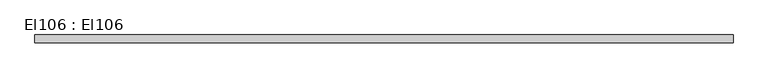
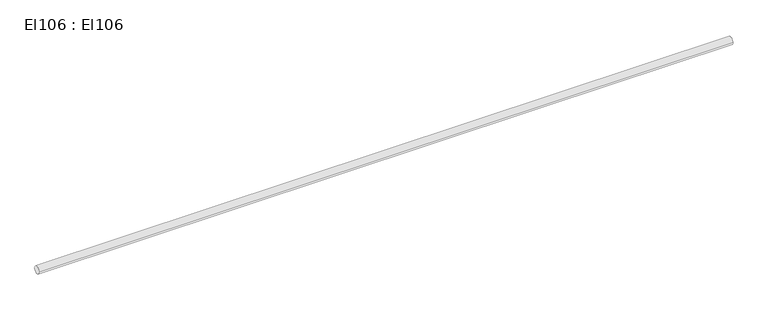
"""IFC4 building model written with IfcOpenShell, lengths in millimetres: cable carrier segment geometry, El106 : El106."""

import ifcopenshell
import ifcopenshell.guid

model = None  # the IFC model being written
_history = None  # IfcOwnerHistory: only IFC2X3 demands one
_inside = {}  # id of a spatial element -> (the spatial element, [elements in it])
_under = {}  # id of a project, library or spatial element -> (it, [spatial elements below it])
_declared = {}  # id of a project -> (the project, [libraries it declares])
_typed = {}  # id of a type object -> (the type object, [elements of that type])
_made_of = {}  # id of a material, layer set ... -> (it, [elements and type objects made of it])


def new_model(schema):
    """Start an empty IFC model of exactly this schema.

    Asked for "IFC4X3", IfcOpenShell would pick the latest addendum, in which some entities
    have other attributes; the version numbers below select the first issue.
    IFC2X3 requires an IfcOwnerHistory on every rooted entity: one is made here for all.
    """
    global model, _history
    if schema == "IFC4X3":
        model = ifcopenshell.file(schema_version=(4, 3, 0, 0))
    else:
        model = ifcopenshell.file(schema=schema)
    _inside.clear()
    _under.clear()
    _declared.clear()
    _typed.clear()
    _made_of.clear()
    _history = None
    if model.schema == "IFC2X3":
        org = make("IfcOrganization", Name="unknown")
        user = make(
            "IfcPersonAndOrganization",
            ThePerson=make("IfcPerson", FamilyName="unknown"),
            TheOrganization=org,
        )
        app = make(
            "IfcApplication",
            ApplicationDeveloper=org,
            Version="unknown",
            ApplicationFullName="unknown",
            ApplicationIdentifier="unknown",
        )
        _history = make(
            "IfcOwnerHistory",
            OwningUser=user,
            OwningApplication=app,
            ChangeAction="ADDED",
            CreationDate=0,
        )
    return model


def make(cls, **values):
    """One entity of the class cls with the attributes given. An attribute that is None is left unset."""
    return model.create_entity(
        cls, **{name: value for name, value in values.items() if value is not None}
    )


def rooted(cls, **values):
    """An entity with a GlobalId (a new one), such as an element, a storey or a relation."""
    return make(cls, GlobalId=ifcopenshell.guid.new(), OwnerHistory=_history, **values)


def si_unit(unit_type, name, prefix=None):
    """IfcSIUnit, for example si_unit("LENGTHUNIT", "METRE", prefix="MILLI")."""
    return make("IfcSIUnit", UnitType=unit_type, Prefix=prefix, Name=name)


def assignment(units):
    """IfcUnitAssignment: the units of a project."""
    return None if units is None else make("IfcUnitAssignment", Units=units)


def point(xyz):
    """IfcCartesianPoint."""
    return None if xyz is None else make("IfcCartesianPoint", Coordinates=xyz)


def direction(xyz):
    """IfcDirection."""
    return None if xyz is None else make("IfcDirection", DirectionRatios=xyz)


def frame(location, z_axis=None, x_axis=None):
    """IfcAxis2Placement3D, a coordinate frame: its origin and axes. An axis left out is left unset."""
    return make(
        "IfcAxis2Placement3D",
        Location=point(location),
        Axis=direction(z_axis),
        RefDirection=direction(x_axis),
    )


def frame_2d(location, x_axis=None):
    """IfcAxis2Placement2D, a coordinate frame in the plane: its origin and x axis."""
    return make(
        "IfcAxis2Placement2D", Location=point(location), RefDirection=direction(x_axis)
    )


def origin():
    """The frame at (0, 0, 0) with its axes left unset."""
    return frame((0.0, 0.0, 0.0))


def place(relative_to, where):
    """IfcLocalPlacement: puts the frame where relative to a parent placement (None: the world)."""
    return make(
        "IfcLocalPlacement", PlacementRelTo=relative_to, RelativePlacement=where
    )


def context(
    kind, dimensions, precision=None, world=None, true_north=None, identifier=None
):
    """IfcGeometricRepresentationContext, for example the 3D "Model" context."""
    return make(
        "IfcGeometricRepresentationContext",
        ContextIdentifier=identifier,
        ContextType=kind,
        CoordinateSpaceDimension=dimensions,
        Precision=precision,
        WorldCoordinateSystem=world,
        TrueNorth=true_north,
    )


def project(units=None, contexts=None):
    """IfcProject with its units and contexts."""
    return rooted(
        "IfcProject",
        Name="project",
        RepresentationContexts=contexts,
        UnitsInContext=assignment(units),
    )


def spatial(cls, under=None, at=None, **own):
    """A site, building, storey or space (cls), placed at a placement, below another one or the project."""
    s = rooted(cls, ObjectPlacement=at, **own)
    if under is not None:
        _under.setdefault(under.id(), (under, []))[1].append(s)
    return s


def circle_curve(where, radius):
    """IfcCircle in the frame where."""
    return make("IfcCircle", Position=where, Radius=radius)


def trimmed(basis, trim1, trim2, sense, master):
    """IfcTrimmedCurve: the piece of a basis curve between two trims."""
    return make(
        "IfcTrimmedCurve",
        BasisCurve=basis,
        Trim1=trim1,
        Trim2=trim2,
        SenseAgreement=sense,
        MasterRepresentation=master,
    )


def segment(curve, same_sense, transition):
    """IfcCompositeCurveSegment."""
    return make(
        "IfcCompositeCurveSegment",
        Transition=transition,
        SameSense=same_sense,
        ParentCurve=curve,
    )


def composite_curve(segments, self_intersect=None):
    """IfcCompositeCurve: segments joined end to end."""
    return make("IfcCompositeCurve", Segments=segments, SelfIntersect=self_intersect)


def outline(outer, holes=None, kind="AREA"):
    """IfcArbitraryClosedProfileDef: a profile drawn as a closed curve; with holes, ...WithVoids."""
    if holes is None:
        return make("IfcArbitraryClosedProfileDef", ProfileType=kind, OuterCurve=outer)
    return make(
        "IfcArbitraryProfileDefWithVoids",
        ProfileType=kind,
        OuterCurve=outer,
        InnerCurves=holes,
    )


def extrude(swept, where, along, depth):
    """IfcExtrudedAreaSolid: the profile swept, set in the frame where, extruded along a direction by depth."""
    return make(
        "IfcExtrudedAreaSolid",
        SweptArea=swept,
        Position=where,
        ExtrudedDirection=direction(along),
        Depth=depth,
    )


def shape(context_of_items, identifier, shape_type, items):
    """IfcShapeRepresentation: the items that make up one representation, for example the "Body"."""
    return make(
        "IfcShapeRepresentation",
        ContextOfItems=context_of_items,
        RepresentationIdentifier=identifier,
        RepresentationType=shape_type,
        Items=items,
    )


def source(mapping_origin, context_of_items, identifier, shape_type, items):
    """IfcRepresentationMap: a shape defined once, which mapped items show again and again."""
    return make(
        "IfcRepresentationMap",
        MappingOrigin=mapping_origin,
        MappedRepresentation=shape(context_of_items, identifier, shape_type, items),
    )


def transform(
    local_origin,
    x_axis=None,
    y_axis=None,
    z_axis=None,
    scale=None,
    scale2=None,
    scale3=None,
    uniform=True,
):
    """IfcCartesianTransformationOperator3D, or its non-uniform kind. x_axis, y_axis, z_axis: its Axis1, 2, 3."""
    if uniform:
        return make(
            "IfcCartesianTransformationOperator3D",
            Axis1=direction(x_axis),
            Axis2=direction(y_axis),
            LocalOrigin=point(local_origin),
            Scale=scale,
            Axis3=direction(z_axis),
        )
    return make(
        "IfcCartesianTransformationOperator3DnonUniform",
        Axis1=direction(x_axis),
        Axis2=direction(y_axis),
        LocalOrigin=point(local_origin),
        Scale=scale,
        Axis3=direction(z_axis),
        Scale2=scale2,
        Scale3=scale3,
    )


def mapped(mapping_source, mapping_target):
    """IfcMappedItem: shows the shape of a source again, moved by a transform."""
    return make(
        "IfcMappedItem", MappingSource=mapping_source, MappingTarget=mapping_target
    )


def made_of(thing, what):
    """Note that an element or type object is made of a material, layer set ...; save() writes the relation."""
    if what is not None:
        _made_of.setdefault(what.id(), (what, []))[1].append(thing)
    return thing


def element(
    cls,
    number,
    at=None,
    inside=None,
    cuts=None,
    type_object=None,
    material=None,
    context=None,
    identifier="Body",
    shape_type=None,
    held_by="IfcProductDefinitionShape",
    body=None,
    shapes=None,
    **own,
):
    """One element of the class cls, such as IfcWall. Its Tag is "e" and its number.

    at: its placement. inside: the storey or other place that contains it. cuts: it is an
    opening in that element (IfcRelVoidsElement). A single representation is given by context,
    identifier, shape_type and body (its items); several are given by shapes. held_by: the class
    of the entity that holds the representations. save() writes the other relations.
    """
    e = rooted(cls, Tag="e%d" % number, ObjectPlacement=at, **own)
    if body is not None:
        shapes = [shape(context, identifier, shape_type, body)]
    if shapes is not None:
        e.Representation = make(held_by, Representations=shapes)
    if inside is not None:
        _inside.setdefault(inside.id(), (inside, []))[1].append(e)
    if cuts is not None:
        rooted(
            "IfcRelVoidsElement", RelatingBuildingElement=cuts, RelatedOpeningElement=e
        )
    if type_object is not None:
        _typed.setdefault(type_object.id(), (type_object, []))[1].append(e)
    return made_of(e, material)


def aggregate(whole, parts):
    """IfcRelAggregates: a whole, such as a stair, and the parts it consists of."""
    return rooted("IfcRelAggregates", RelatingObject=whole, RelatedObjects=parts)


def save(model, path):
    """Write the relations noted so far, then the file.

    IfcRelAggregates (storeys below a building ...), IfcRelContainedInSpatialStructure (elements
    in a storey), IfcRelDefinesByType, IfcRelAssociatesMaterial and IfcRelDeclares: one each for
    every whole, place, type object, material and project.
    """
    for whole, parts in _under.values():
        aggregate(whole, parts)
    for where, things in _inside.values():
        rooted(
            "IfcRelContainedInSpatialStructure",
            RelatedElements=things,
            RelatingStructure=where,
        )
    for kind, things in _typed.values():
        rooted("IfcRelDefinesByType", RelatedObjects=things, RelatingType=kind)
    for what, things in _made_of.values():
        rooted("IfcRelAssociatesMaterial", RelatedObjects=things, RelatingMaterial=what)
    for by, libraries in _declared.values():
        rooted("IfcRelDeclares", RelatingContext=by, RelatedDefinitions=libraries)
    model.write(path)


def el106_el106_c72d51c5(model_context):
    return source(origin(), model_context, "Body", "SweptSolid", [
        extrude(outline(composite_curve([segment(trimmed(circle_curve(frame_2d((16792.1, 2950.0)), 9.5), [point((16782.6, 2950.0))], [point((16801.6, 2950.0))], False, "CARTESIAN"), True, "CONTINUOUS"), segment(trimmed(circle_curve(frame_2d((16792.1, 2950.0)), 9.5), [point((16801.6, 2950.0))], [point((16782.6, 2950.0))], False, "CARTESIAN"), True, "CONTINUOUS")], self_intersect=False)), frame((29941.7, 0.0, 0.0), z_axis=(1.0, 0.0, 0.0), x_axis=(0.0, 1.0, 0.0)), (0.0, 0.0, 1.0), 1725.0),
    ])


if __name__ == "__main__":
    model = new_model("IFC4")
    model_context = context("Model", 3, world=origin())
    ifc_project = project(units=[si_unit("LENGTHUNIT", "METRE", prefix="MILLI")], contexts=[model_context])
    site = spatial("IfcSite", under=ifc_project)
    building = spatial("IfcBuilding", under=site)
    placement = place(None, origin())
    el106_el106_shape = el106_el106_c72d51c5(model_context)
    element("IfcCableCarrierSegment", 1, ObjectType="El106 : El106", at=placement, inside=building, context=model_context, shape_type="MappedRepresentation", body=[
        mapped(el106_el106_shape, transform((0.0, 0.0, 0.0), x_axis=(1.0, 0.0, 0.0), y_axis=(0.0, 1.0, 0.0), z_axis=(0.0, 0.0, 1.0))),
    ])
    save(model, "model.ifc")
